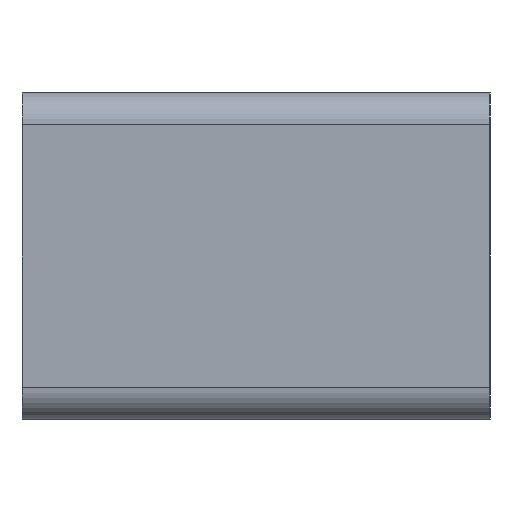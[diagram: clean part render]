
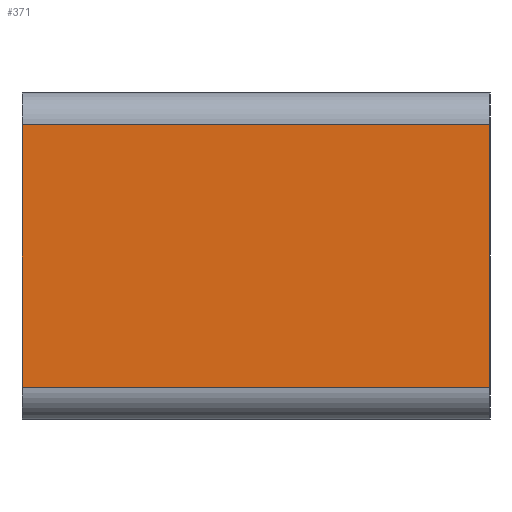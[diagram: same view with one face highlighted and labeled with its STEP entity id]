
A CAD part, left-side view. The second image highlights one B-rep face of the part: STEP entity #371.
In plain terms, the highlighted planar face has unit normal (-1, 0, 0).
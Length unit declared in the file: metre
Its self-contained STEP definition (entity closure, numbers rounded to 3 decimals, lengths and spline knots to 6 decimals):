
#56=ORIENTED_EDGE('',*,*,#160,.F.);
#57=ORIENTED_EDGE('',*,*,#161,.T.);
#58=ORIENTED_EDGE('',*,*,#162,.T.);
#59=ORIENTED_EDGE('',*,*,#157,.F.);
#157=EDGE_CURVE('',#208,#209,#245,.T.);
#160=EDGE_CURVE('',#210,#208,#246,.T.);
#161=EDGE_CURVE('',#210,#211,#247,.T.);
#162=EDGE_CURVE('',#211,#209,#248,.T.);
#208=VERTEX_POINT('',#603);
#209=VERTEX_POINT('',#604);
#210=VERTEX_POINT('',#609);
#211=VERTEX_POINT('',#611);
#245=LINE('',#602,#283);
#246=LINE('',#608,#284);
#247=LINE('',#610,#285);
#248=LINE('',#612,#286);
#283=VECTOR('',#488,1.);
#284=VECTOR('',#495,1.);
#285=VECTOR('',#496,1.);
#286=VECTOR('',#497,1.);
#315=EDGE_LOOP('',(#56,#57,#58,#59));
#335=FACE_BOUND('',#315,.T.);
#353=PLANE('',#434);
#371=ADVANCED_FACE('',(#335),#353,.T.);
#434=AXIS2_PLACEMENT_3D('',#607,#493,#494);
#488=DIRECTION('',(0.,-1.,0.));
#493=DIRECTION('',(-1.,0.,0.));
#494=DIRECTION('',(0.,0.,1.));
#495=DIRECTION('',(0.,0.,1.));
#496=DIRECTION('',(0.,-1.,0.));
#497=DIRECTION('',(0.,0.,1.));
#602=CARTESIAN_POINT('',(0.1576,-0.12135,0.00191));
#603=CARTESIAN_POINT('',(0.1576,-0.12135,0.00191));
#604=CARTESIAN_POINT('',(0.1576,-0.12185,0.00191));
#607=CARTESIAN_POINT('',(0.1576,-0.12135,0.001595));
#608=CARTESIAN_POINT('',(0.1576,-0.12135,0.001595));
#609=CARTESIAN_POINT('',(0.1576,-0.12135,0.00163));
#610=CARTESIAN_POINT('',(0.1576,-0.12135,0.00163));
#611=CARTESIAN_POINT('',(0.1576,-0.12185,0.00163));
#612=CARTESIAN_POINT('',(0.1576,-0.12185,0.001595));
